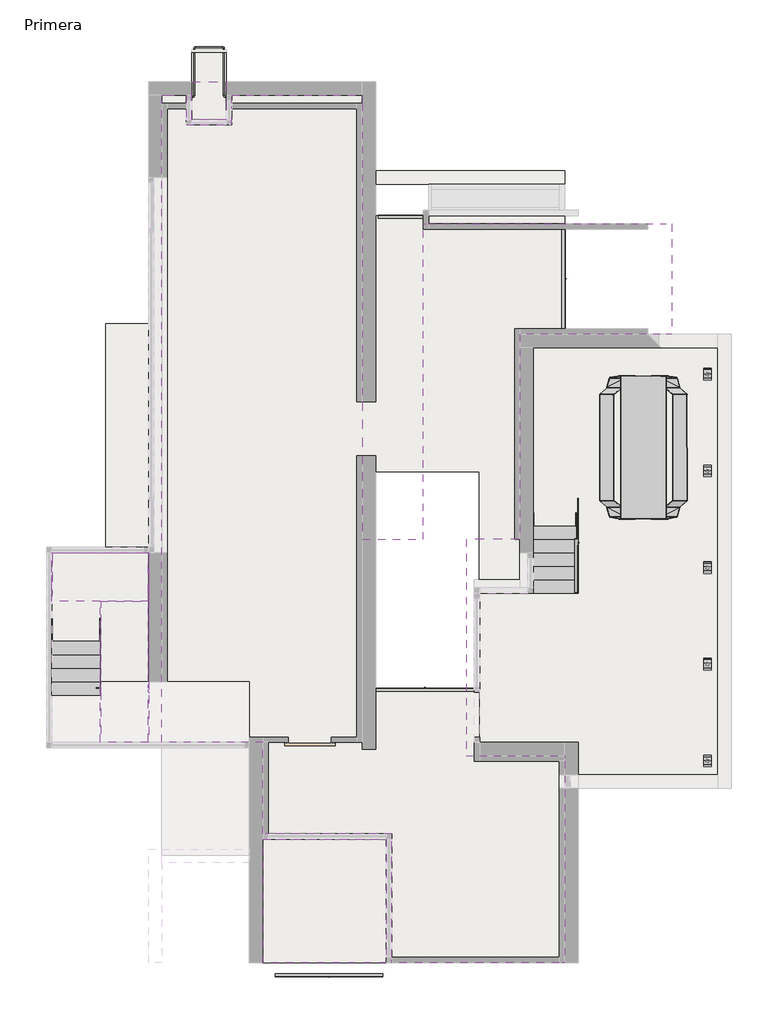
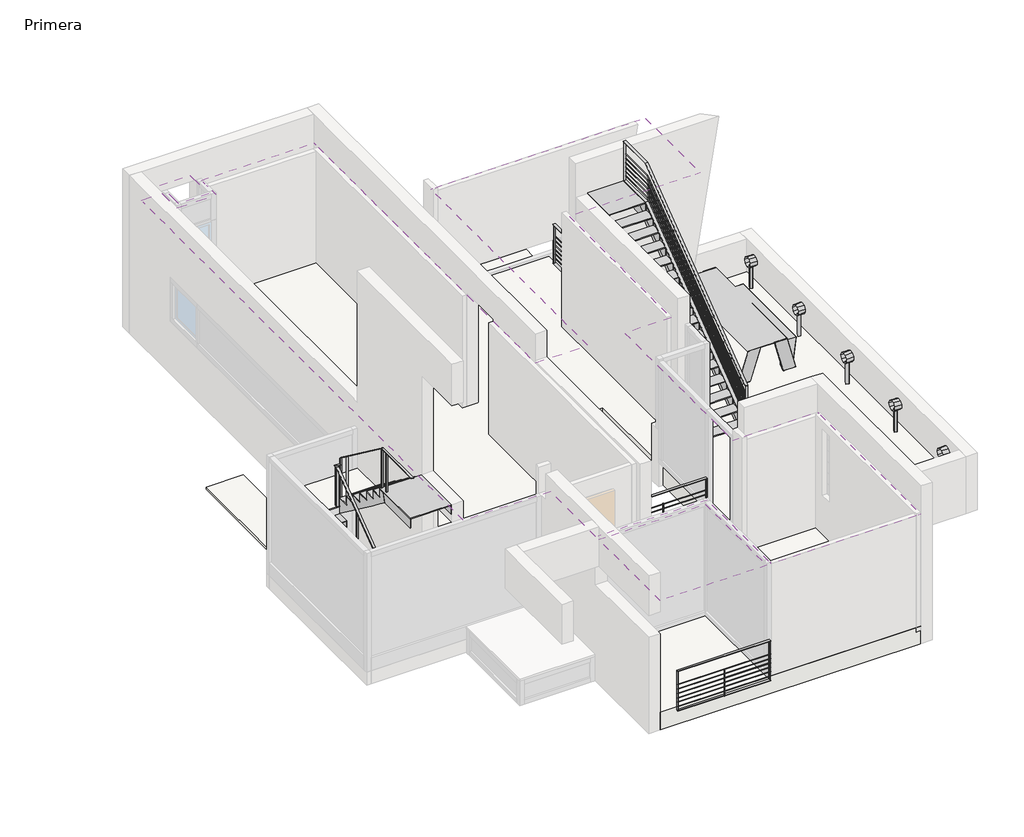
# One storey, part 3 of 3: 11 members, 7 railings, 6 geographic elements, 5 slabs, 3 coverings, 3 stair flights, 1 roof.
"""IFC4 building model written with IfcOpenShell, lengths in millimetres."""

from ifc_helpers import new_model, si_unit, frame, origin, place, context, project, spatial, polyline, outline, extrude, faceted_brep, transform, mapped, element, save
from components import enscape_assetdefinition_outdoor_lamp_005_enscape_cb5cc8c5, enscape_assetdefinition_table_007_enscape_assetdefinition_4199a16f, railing_fb63fa7a, railing_47f48422, railing_eccc1b04, railing_ba0a9aa2, railing_8e1c6d7f, railing_900mm_steel_wire_w_pipe_148a66af, tubo_20_mm_4b636775, slab_f2b46a35, stair_flight_130c18ed, stair_flight_92d3cbff, stair_flight_a7d8fed5

model = new_model("IFC4")

# Units and contexts
model_context = context("Model", 3, world=origin())
ifc_project = project(units=[si_unit("LENGTHUNIT", "METRE", prefix="MILLI")], contexts=[model_context])

# Site, building, storey
site = spatial("IfcSite", under=ifc_project)
building = spatial("IfcBuilding", under=site)
storey = spatial("IfcBuildingStorey", under=building, Name="Primera", Elevation=3000.0)

# Coverings
placement = place(None, origin())
element("IfcCovering", 1, ObjectType="Falso techo continuo de placa de yeso laminado", at=placement, inside=storey, context=model_context, shape_type="Brep", body=[
    faceted_brep([(-3981.0601801, -8042.6669037, 5700.0), (-2103.1025942, -8042.6669037, 5700.0), (-2103.1025942, -9742.6669037, 5700.0), (296.8974058, -9742.6669037, 5700.0), (296.8974058, -12142.6669037, 5700.0), (3518.9398199, -12142.6669037, 5700.0), (3518.9398199, -8292.6669037, 5700.0), (1685.5350958, -8292.6669037, 5700.0), (1685.5350958, -4262.6669037, 5700.0), (2685.5350958, -4262.6669037, 5700.0), (2685.5350958, -443.1853621, 5700.0), (5515.6880653, -443.1853621, 5700.0), (5515.6880653, 1619.072658, 5700.0), (885.5350958, 1619.072658, 5700.0), (885.5350958, -4262.6669037, 5700.0), (-250.8601801, -4262.6669037, 5700.0), (-250.8601801, 4011.8960075, 5700.0), (-2681.0601801, 4011.8960075, 5700.0), (-2681.0601801, 3457.3330963, 5700.0), (-3531.0601801, 3457.3330963, 5700.0), (-3531.0601801, 4011.8960075, 5700.0), (-3981.0601801, 4011.8960075, 5700.0), (-3981.0601801, -8042.6669037, 5650.0), (-3981.0601801, -6912.6669037, 5650.0), (-3981.0601801, 3857.3330963, 5650.0), (-3981.0601801, 4011.8960075, 5650.0), (-3531.0601801, 4011.8960075, 5650.0), (-3531.0601801, 3457.3330963, 5650.0), (-2681.0601801, 3457.3330963, 5650.0), (-2681.0601801, 3757.3330963, 5650.0), (-2681.0601801, 3857.3330963, 5650.0), (-2681.0601801, 4011.8960075, 5650.0), (-250.8601801, 4011.8960075, 5650.0), (-250.8601801, 3857.3330963, 5650.0), (-250.8601801, -1702.6669037, 5650.0), (-250.8601801, -2702.6669037, 5650.0), (-250.8601801, -4262.6669037, 5650.0), (885.5350958, -4262.6669037, 5650.0), (885.5350958, 1619.072658, 5650.0), (985.5350958, 1619.072658, 5650.0), (5297.2414633, 1619.072658, 5650.0), (5515.6880653, 1619.072658, 5650.0), (5515.6880653, -443.1853621, 5650.0), (5297.2414633, -443.1853621, 5650.0), (2685.5350958, -443.1853621, 5650.0), (2685.5350958, -4262.6669037, 5650.0), (1685.5350958, -4262.6669037, 5650.0), (1685.5350958, -8292.6669037, 5650.0), (1935.5350958, -8292.6669037, 5650.0), (3518.9398199, -8292.6669037, 5650.0), (3518.9398199, -8392.6669037, 5650.0), (3518.9398199, -12142.6669037, 5650.0), (3418.9398199, -12142.6669037, 5650.0), (296.8974058, -12142.6669037, 5650.0), (296.8974058, -12042.6669037, 5650.0), (296.8974058, -9742.6669037, 5650.0), (-2003.1025942, -9742.6669037, 5650.0), (-2103.1025942, -9742.6669037, 5650.0), (-2103.1025942, -8042.6669037, 5650.0)], [[[0, 1, 2, 3, 4, 5, 6, 7, 8, 9, 10, 11, 12, 13, 14, 15, 16, 17, 18, 19, 20, 21]], [[22, 23, 24, 25, 26, 27, 28, 29, 30, 31, 32, 33, 34, 35, 36, 37, 38, 39, 40, 41, 42, 43, 44, 45, 46, 47, 48, 49, 50, 51, 52, 53, 54, 55, 56, 57, 58]], [[1, 0, 22, 58]], [[2, 1, 58, 57]], [[3, 2, 57, 56, 55]], [[4, 3, 55, 54, 53]], [[5, 4, 53, 52, 51]], [[6, 5, 51, 50, 49]], [[7, 6, 49, 48, 47]], [[16, 15, 36, 35, 34, 33, 32]], [[17, 16, 32, 31]], [[0, 21, 25, 24, 23, 22]], [[8, 7, 47, 46]], [[9, 8, 46, 45]], [[10, 9, 45, 44]], [[11, 10, 44, 43, 42]], [[12, 11, 42, 41]], [[13, 12, 41, 40, 39, 38]], [[14, 13, 38, 37]], [[15, 14, 37, 36]], [[18, 17, 31, 30, 29, 28]], [[19, 18, 28, 27]], [[20, 19, 27, 26]], [[21, 20, 26, 25]]]),
])
element("IfcCovering", 2, ObjectType="Techo falso de placa de metal", at=placement, inside=storey, context=model_context, shape_type="SweptSolid", body=[
    extrude(outline(polyline([(-3431.0601801, 4261.8960075), (-2781.0601801, 4261.8960075), (-2781.0601801, 3557.3330963), (-3431.0601801, 3557.3330963), (-3431.0601801, 4261.8960075)])), frame((0.0, 0.0, 5650.0), z_axis=(0.0, 0.0, 1.0), x_axis=(1.0, 0.0, 0.0)), (0.0, 0.0, 1.0), 10.0),
])
element("IfcCovering", 3, ObjectType="Techo falso de placa de metal", at=placement, inside=storey, context=model_context, shape_type="SweptSolid", body=[
    extrude(outline(polyline([(-2103.1025942, -9842.6669037), (196.8974058, -9842.6669037), (196.8974058, -12142.6669037), (-2103.1025942, -12142.6669037), (-2103.1025942, -9842.6669037)])), frame((0.0, 0.0, 5650.0), z_axis=(0.0, 0.0, 1.0), x_axis=(1.0, 0.0, 0.0)), (0.0, 0.0, 1.0), 10.0),
])

# Geographic elements
enscape_assetdefinition_outdoor_lamp_005_enscape_shape = enscape_assetdefinition_outdoor_lamp_005_enscape_cb5cc8c5(model_context)
element("IfcGeographicElement", 4, ObjectType="Enscape AssetDefinition - Outdoor Lamp 005 : Enscape AssetDefinition - Outdoor Lamp 005", at=placement, inside=storey, context=model_context, shape_type="MappedRepresentation", body=[
    mapped(enscape_assetdefinition_outdoor_lamp_005_enscape_shape, transform((6178.7374579, -8392.6669037, 3250.0), x_axis=(0.0, 1.0, 0.0), y_axis=(-1.0, 0.0, 0.0), z_axis=(0.0, 0.0, 1.0))),
])
element("IfcGeographicElement", 5, ObjectType="Enscape AssetDefinition - Outdoor Lamp 005 : Enscape AssetDefinition - Outdoor Lamp 005", at=placement, inside=storey, context=model_context, shape_type="MappedRepresentation", body=[
    mapped(enscape_assetdefinition_outdoor_lamp_005_enscape_shape, transform((6178.7374579, -6592.6669037, 3250.0), x_axis=(0.0, 1.0, 0.0), y_axis=(-1.0, 0.0, 0.0), z_axis=(0.0, 0.0, 1.0))),
])
element("IfcGeographicElement", 6, ObjectType="Enscape AssetDefinition - Outdoor Lamp 005 : Enscape AssetDefinition - Outdoor Lamp 005", at=placement, inside=storey, context=model_context, shape_type="MappedRepresentation", body=[
    mapped(enscape_assetdefinition_outdoor_lamp_005_enscape_shape, transform((6178.7374579, -4792.6669037, 3250.0), x_axis=(0.0, 1.0, 0.0), y_axis=(-1.0, 0.0, 0.0), z_axis=(0.0, 0.0, 1.0))),
])
element("IfcGeographicElement", 7, ObjectType="Enscape AssetDefinition - Outdoor Lamp 005 : Enscape AssetDefinition - Outdoor Lamp 005", at=placement, inside=storey, context=model_context, shape_type="MappedRepresentation", body=[
    mapped(enscape_assetdefinition_outdoor_lamp_005_enscape_shape, transform((6178.7374579, -2992.6669037, 3250.0), x_axis=(0.0, 1.0, 0.0), y_axis=(-1.0, 0.0, 0.0), z_axis=(0.0, 0.0, 1.0))),
])
element("IfcGeographicElement", 8, ObjectType="Enscape AssetDefinition - Outdoor Lamp 005 : Enscape AssetDefinition - Outdoor Lamp 005", at=placement, inside=storey, context=model_context, shape_type="MappedRepresentation", body=[
    mapped(enscape_assetdefinition_outdoor_lamp_005_enscape_shape, transform((6178.7374579, -1192.6669037, 3250.0), x_axis=(0.0, 1.0, 0.0), y_axis=(-1.0, 0.0, 0.0), z_axis=(0.0, 0.0, 1.0))),
])
enscape_assetdefinition_table_007_enscape_assetdefinition_shape = enscape_assetdefinition_table_007_enscape_assetdefinition_4199a16f(model_context)
element("IfcGeographicElement", 9, ObjectType="Enscape AssetDefinition - Table 007 : Enscape AssetDefinition - Table 007", at=placement, inside=storey, context=model_context, shape_type="MappedRepresentation", body=[
    mapped(enscape_assetdefinition_table_007_enscape_assetdefinition_shape, transform((4983.6012558, -2550.0, 3250.0), x_axis=(0.0, 1.0, 0.0), y_axis=(-1.0, 0.0, 0.0), z_axis=(0.0, 0.0, 1.0))),
])

# Members
element("IfcMember", 10, ObjectType="Pletina acero", at=placement, inside=storey, context=model_context, shape_type="Brep", body=[
    faceted_brep([(-6021.0601801, -7162.6669037, 3300.0), (-6031.0601801, -7162.6669037, 3300.0), (-6031.0601801, -6935.309303, 3300.0), (-6021.0601801, -6935.309303, 3300.0), (-6021.0601801, -7162.6669037, 3466.6666667), (-6031.0601801, -7162.6669037, 3466.6666667), (-6021.0601801, -5229.9521601, 4573.3333333), (-6021.0601801, -5296.3814947, 4773.3333333), (-6021.0601801, -5412.6669037, 4773.3333333), (-6021.0601801, -5412.6669037, 4586.6666667), (-6021.0601801, -5662.6669037, 4586.6666667), (-6021.0601801, -5662.6669037, 4400.0), (-6021.0601801, -5912.6669037, 4400.0), (-6021.0601801, -5912.6669037, 4213.3333333), (-6021.0601801, -6162.6669037, 4213.3333333), (-6021.0601801, -6162.6669037, 4026.6666667), (-6021.0601801, -6412.6669037, 4026.6666667), (-6021.0601801, -6412.6669037, 3840.0), (-6021.0601801, -6662.6669037, 3840.0), (-6021.0601801, -6662.6669037, 3653.3333333), (-6021.0601801, -6912.6669037, 3653.3333333), (-6021.0601801, -6912.6669037, 3466.6666667), (-6031.0601801, -6912.6669037, 3466.6666667), (-6031.0601801, -6912.6669037, 3653.3333333), (-6031.0601801, -6662.6669037, 3653.3333333), (-6031.0601801, -6662.6669037, 3840.0), (-6031.0601801, -6412.6669037, 3840.0), (-6031.0601801, -6412.6669037, 4026.6666667), (-6031.0601801, -6162.6669037, 4026.6666667), (-6031.0601801, -6162.6669037, 4213.3333333), (-6031.0601801, -5912.6669037, 4213.3333333), (-6031.0601801, -5912.6669037, 4400.0), (-6031.0601801, -5662.6669037, 4400.0), (-6031.0601801, -5662.6669037, 4586.6666667), (-6031.0601801, -5412.6669037, 4586.6666667), (-6031.0601801, -5412.6669037, 4773.3333333), (-6031.0601801, -5296.3814947, 4773.3333333), (-6031.0601801, -5229.9521601, 4573.3333333), (-6031.0601801, -5412.6669037, 4436.9063248), (-6031.0601801, -5662.6669037, 4250.2396581), (-6031.0601801, -5912.6669037, 4063.5729915), (-6031.0601801, -6162.6669037, 3876.9063248), (-6031.0601801, -6412.6669037, 3690.2396581), (-6031.0601801, -6662.6669037, 3503.5729915), (-6031.0601801, -6912.6669037, 3316.9063248)], [[[0, 1, 2, 3]], [[0, 4, 5, 1]], [[3, 6, 7, 8, 9, 10, 11, 12, 13, 14, 15, 16, 17, 18, 19, 20, 21, 4, 0]], [[21, 22, 5, 4]], [[1, 5, 22, 23, 24, 25, 26, 27, 28, 29, 30, 31, 32, 33, 34, 35, 36, 37, 38, 39, 40, 41, 42, 43, 44, 2]], [[2, 44, 43, 42, 41, 40, 39, 38, 37, 6, 3]], [[31, 12, 11, 32]], [[22, 21, 20, 23]], [[23, 20, 19, 24]], [[24, 19, 18, 25]], [[25, 18, 17, 26]], [[26, 17, 16, 27]], [[27, 16, 15, 28]], [[28, 15, 14, 29]], [[29, 14, 13, 30]], [[30, 13, 12, 31]], [[8, 35, 34, 9]], [[35, 8, 7, 36]], [[6, 37, 36, 7]], [[32, 11, 10, 33]], [[33, 10, 9, 34]]]),
])
element("IfcMember", 11, ObjectType="Pletina acero", at=placement, inside=storey, context=model_context, shape_type="Brep", body=[
    faceted_brep([(-5131.0601801, -7162.6669037, 3300.0), (-5141.0601801, -7162.6669037, 3300.0), (-5141.0601801, -6935.309303, 3300.0), (-5131.0601801, -6935.309303, 3300.0), (-5131.0601801, -7162.6669037, 3466.6666667), (-5141.0601801, -7162.6669037, 3466.6666667), (-5131.0601801, -6912.6669037, 3316.9063248), (-5131.0601801, -6662.6669037, 3503.5729915), (-5131.0601801, -6412.6669037, 3690.2396581), (-5131.0601801, -6162.6669037, 3876.9063248), (-5131.0601801, -5912.6669037, 4063.5729915), (-5131.0601801, -5712.0950172, 4213.3333333), (-5131.0601801, -5412.6669037, 4436.9063248), (-5131.0601801, -5412.6669037, 4586.6666667), (-5131.0601801, -5662.6669037, 4586.6666667), (-5131.0601801, -5662.6669037, 4400.0), (-5131.0601801, -5912.6669037, 4400.0), (-5131.0601801, -5912.6669037, 4213.3333333), (-5131.0601801, -6162.6669037, 4213.3333333), (-5131.0601801, -6162.6669037, 4026.6666667), (-5131.0601801, -6412.6669037, 4026.6666667), (-5131.0601801, -6412.6669037, 3840.0), (-5131.0601801, -6662.6669037, 3840.0), (-5131.0601801, -6662.6669037, 3653.3333333), (-5131.0601801, -6912.6669037, 3653.3333333), (-5131.0601801, -6912.6669037, 3466.6666667), (-5141.0601801, -6912.6669037, 3466.6666667), (-5141.0601801, -5412.6669037, 4436.9063248), (-5141.0601801, -6912.6669037, 3653.3333333), (-5141.0601801, -6662.6669037, 3653.3333333), (-5141.0601801, -6662.6669037, 3840.0), (-5141.0601801, -6412.6669037, 3840.0), (-5141.0601801, -6412.6669037, 4026.6666667), (-5141.0601801, -6162.6669037, 4026.6666667), (-5141.0601801, -6162.6669037, 4213.3333333), (-5141.0601801, -5912.6669037, 4213.3333333), (-5141.0601801, -5912.6669037, 4400.0), (-5141.0601801, -5662.6669037, 4400.0), (-5141.0601801, -5662.6669037, 4586.6666667), (-5141.0601801, -5412.6669037, 4586.6666667)], [[[0, 1, 2, 3]], [[0, 4, 5, 1]], [[4, 0, 3, 6, 7, 8, 9, 10, 11, 12, 13, 14, 15, 16, 17, 18, 19, 20, 21, 22, 23, 24, 25]], [[25, 26, 5, 4]], [[27, 2, 1, 5, 26, 28, 29, 30, 31, 32, 33, 34, 35, 36, 37, 38, 39]], [[2, 27, 12, 11, 10, 9, 8, 7, 6, 3]], [[36, 16, 15, 37]], [[26, 25, 24, 28]], [[28, 24, 23, 29]], [[29, 23, 22, 30]], [[30, 22, 21, 31]], [[31, 21, 20, 32]], [[32, 20, 19, 33]], [[33, 19, 18, 34]], [[34, 18, 17, 35]], [[35, 17, 16, 36]], [[12, 27, 39, 13]], [[37, 15, 14, 38]], [[38, 14, 13, 39]]]),
])
element("IfcMember", 12, ObjectType="Pletina acero", at=placement, inside=storey, context=model_context, shape_type="Brep", body=[
    faceted_brep([(-4231.0601801, -5345.3816473, 4573.3333333), (-4231.0601801, -5278.9523127, 4773.3333333), (-4231.0601801, -5412.6669037, 4773.3333333), (-4231.0601801, -5412.6669037, 4960.0), (-4231.0601801, -5662.6669037, 4960.0), (-4231.0601801, -5662.6669037, 5146.6666667), (-4231.0601801, -5912.6669037, 5146.6666667), (-4231.0601801, -5912.6669037, 5333.3333333), (-4231.0601801, -6162.6669037, 5333.3333333), (-4231.0601801, -6162.6669037, 5520.0), (-4231.0601801, -6412.6669037, 5520.0), (-4231.0601801, -6412.6669037, 5706.6666667), (-4231.0601801, -6662.6669037, 5706.6666667), (-4231.0601801, -6662.6669037, 5893.3333333), (-4231.0601801, -6912.6669037, 5893.3333333), (-4231.0601801, -6912.6669037, 6080.0), (-4231.0601801, -7028.9523127, 6080.0), (-4231.0601801, -7095.3816473, 5880.0), (-4231.0601801, -6912.6669037, 5743.5729915), (-4231.0601801, -6662.6669037, 5556.9063248), (-4231.0601801, -6412.6669037, 5370.2396581), (-4231.0601801, -6162.6669037, 5183.5729915), (-4231.0601801, -5912.6669037, 4996.9063248), (-4231.0601801, -5662.6669037, 4810.2396581), (-4231.0601801, -5412.6669037, 4623.5729915), (-4241.0601801, -7095.3816473, 5880.0), (-4241.0601801, -5345.3816473, 4573.3333333), (-4241.0601801, -7028.9523127, 6080.0), (-4241.0601801, -6912.6669037, 6080.0), (-4241.0601801, -6912.6669037, 5893.3333333), (-4241.0601801, -6662.6669037, 5893.3333333), (-4241.0601801, -6662.6669037, 5706.6666667), (-4241.0601801, -6412.6669037, 5706.6666667), (-4241.0601801, -6412.6669037, 5520.0), (-4241.0601801, -6162.6669037, 5520.0), (-4241.0601801, -6162.6669037, 5333.3333333), (-4241.0601801, -5912.6669037, 5333.3333333), (-4241.0601801, -5912.6669037, 5146.6666667), (-4241.0601801, -5662.6669037, 5146.6666667), (-4241.0601801, -5662.6669037, 4960.0), (-4241.0601801, -5412.6669037, 4960.0), (-4241.0601801, -5412.6669037, 4773.3333333), (-4241.0601801, -5278.9523127, 4773.3333333)], [[[0, 1, 2, 3, 4, 5, 6, 7, 8, 9, 10, 11, 12, 13, 14, 15, 16, 17, 18, 19, 20, 21, 22, 23, 24]], [[25, 26, 0, 24, 23, 22, 21, 20, 19, 18, 17]], [[26, 25, 27, 28, 29, 30, 31, 32, 33, 34, 35, 36, 37, 38, 39, 40, 41, 42]], [[3, 40, 39, 4]], [[40, 3, 2, 41]], [[5, 38, 37, 6]], [[4, 39, 38, 5]], [[7, 36, 35, 8]], [[6, 37, 36, 7]], [[9, 34, 33, 10]], [[8, 35, 34, 9]], [[11, 32, 31, 12]], [[10, 33, 32, 11]], [[13, 30, 29, 14]], [[12, 31, 30, 13]], [[0, 26, 42, 1]], [[41, 2, 1, 42]], [[25, 17, 16, 27]], [[15, 28, 27, 16]], [[14, 29, 28, 15]]]),
])
element("IfcMember", 13, ObjectType="Pletina acero", at=placement, inside=storey, context=model_context, shape_type="Brep", body=[
    faceted_brep([(-5121.0601801, -7095.3816473, 5880.0), (-5121.0601801, -5412.6669037, 4623.5729915), (-5121.0601801, -5412.6669037, 4960.0), (-5121.0601801, -5662.6669037, 4960.0), (-5121.0601801, -5662.6669037, 5146.6666667), (-5121.0601801, -5912.6669037, 5146.6666667), (-5121.0601801, -5912.6669037, 5333.3333333), (-5121.0601801, -6162.6669037, 5333.3333333), (-5121.0601801, -6162.6669037, 5520.0), (-5121.0601801, -6412.6669037, 5520.0), (-5121.0601801, -6412.6669037, 5706.6666667), (-5121.0601801, -6662.6669037, 5706.6666667), (-5121.0601801, -6662.6669037, 5893.3333333), (-5121.0601801, -6912.6669037, 5893.3333333), (-5121.0601801, -6912.6669037, 6080.0), (-5121.0601801, -7028.9523127, 6080.0), (-5131.0601801, -7095.3816473, 5880.0), (-5131.0601801, -6912.6669037, 5743.5729915), (-5131.0601801, -6662.6669037, 5556.9063248), (-5131.0601801, -6412.6669037, 5370.2396581), (-5131.0601801, -6162.6669037, 5183.5729915), (-5131.0601801, -5912.6669037, 4996.9063248), (-5131.0601801, -5662.6669037, 4810.2396581), (-5131.0601801, -5412.6669037, 4623.5729915), (-5131.0601801, -5412.6669037, 4960.0), (-5131.0601801, -7028.9523127, 6080.0), (-5131.0601801, -6912.6669037, 6080.0), (-5131.0601801, -6912.6669037, 5893.3333333), (-5131.0601801, -6662.6669037, 5893.3333333), (-5131.0601801, -6662.6669037, 5706.6666667), (-5131.0601801, -6412.6669037, 5706.6666667), (-5131.0601801, -6412.6669037, 5520.0), (-5131.0601801, -6162.6669037, 5520.0), (-5131.0601801, -6162.6669037, 5333.3333333), (-5131.0601801, -5912.6669037, 5333.3333333), (-5131.0601801, -5912.6669037, 5146.6666667), (-5131.0601801, -5662.6669037, 5146.6666667), (-5131.0601801, -5662.6669037, 4960.0)], [[[0, 1, 2, 3, 4, 5, 6, 7, 8, 9, 10, 11, 12, 13, 14, 15]], [[1, 0, 16, 17, 18, 19, 20, 21, 22, 23]], [[24, 23, 22, 21, 20, 19, 18, 17, 16, 25, 26, 27, 28, 29, 30, 31, 32, 33, 34, 35, 36, 37]], [[37, 3, 2, 24]], [[4, 36, 35, 5]], [[3, 37, 36, 4]], [[6, 34, 33, 7]], [[5, 35, 34, 6]], [[8, 32, 31, 9]], [[7, 33, 32, 8]], [[10, 30, 29, 11]], [[9, 31, 30, 10]], [[12, 28, 27, 13]], [[11, 29, 28, 12]], [[1, 23, 24, 2]], [[16, 0, 15, 25]], [[14, 26, 25, 15]], [[13, 27, 26, 14]]]),
])
element("IfcMember", 14, ObjectType="Pletina acero", at=placement, inside=storey, context=model_context, shape_type="Brep", body=[
    faceted_brep([(-4241.0601801, -4522.6669037, 4573.3333333), (-4241.0601801, -5345.3816473, 4573.3333333), (-4241.0601801, -5278.9523127, 4773.3333333), (-4241.0601801, -4522.6669037, 4773.3333333), (-4231.0601801, -4512.6669037, 4573.3333333), (-4231.0601801, -5345.3816473, 4573.3333333), (-4231.0601801, -4512.6669037, 4773.3333333), (-4231.0601801, -5278.9523127, 4773.3333333)], [[[0, 1, 2, 3]], [[1, 0, 4, 5]], [[5, 4, 6, 7]], [[3, 2, 7, 6]], [[1, 5, 7, 2]], [[4, 0, 3, 6]]]),
])
element("IfcMember", 15, ObjectType="Pletina acero", at=placement, inside=storey, context=model_context, shape_type="SweptSolid", body=[
    extrude(outline(polyline([(-4241.0601801, -4522.6669037), (-6021.0601801, -4522.6669037), (-6031.0601801, -4512.6669037), (-4231.0601801, -4512.6669037), (-4241.0601801, -4522.6669037)])), frame((0.0, 0.0, 4573.3333333), z_axis=(0.0, 0.0, 1.0), x_axis=(1.0, 0.0, 0.0)), (0.0, 0.0, 1.0), 200.0),
])
element("IfcMember", 16, ObjectType="Pletina acero", at=placement, inside=storey, context=model_context, shape_type="Brep", body=[
    faceted_brep([(-6021.0601801, -5229.9521601, 4573.3333333), (-6021.0601801, -4522.6669037, 4573.3333333), (-6021.0601801, -4522.6669037, 4773.3333333), (-6021.0601801, -5296.3814947, 4773.3333333), (-6031.0601801, -5229.9521601, 4573.3333333), (-6031.0601801, -4512.6669037, 4573.3333333), (-6031.0601801, -5296.3814947, 4773.3333333), (-6031.0601801, -4512.6669037, 4773.3333333)], [[[0, 1, 2, 3]], [[1, 0, 4, 5]], [[5, 4, 6, 7]], [[3, 2, 7, 6]], [[1, 5, 7, 2]], [[4, 0, 3, 6]]]),
])
element("IfcMember", 17, ObjectType="Pletina acero", at=placement, inside=storey, context=model_context, shape_type="Brep", body=[
    faceted_brep([(-4241.0601801, -8042.6669037, 5880.0), (-4231.0601801, -8042.6669037, 5880.0), (-4231.0601801, -8042.6669037, 6080.0), (-4241.0601801, -8042.6669037, 6080.0), (-4231.0601801, -7162.6669037, 5880.0), (-4231.0601801, -7095.3816473, 5880.0), (-4231.0601801, -7028.9523127, 6080.0), (-4231.0601801, -7162.6669037, 6080.0), (-4241.0601801, -7095.3816473, 5880.0), (-4241.0601801, -7028.9523127, 6080.0)], [[[0, 1, 2, 3]], [[2, 1, 4, 5, 6, 7]], [[1, 0, 8, 5, 4]], [[8, 0, 3, 9]], [[5, 8, 9, 6]], [[3, 2, 7, 6, 9]]]),
])
element("IfcMember", 18, ObjectType="Pletina acero", at=placement, inside=storey, context=model_context, shape_type="Brep", body=[
    faceted_brep([(-5131.0601801, -8042.6669037, 5880.0), (-5121.0601801, -8042.6669037, 5880.0), (-5121.0601801, -8042.6669037, 6080.0), (-5131.0601801, -8042.6669037, 6080.0), (-5121.0601801, -7095.3816473, 5880.0), (-5121.0601801, -7028.9523127, 6080.0), (-5131.0601801, -7162.6669037, 5880.0), (-5131.0601801, -7095.3816473, 5880.0), (-5131.0601801, -7162.6669037, 6080.0), (-5131.0601801, -7028.9523127, 6080.0)], [[[0, 1, 2, 3]], [[1, 4, 5, 2]], [[1, 0, 6, 7, 4]], [[0, 3, 8, 9, 7, 6]], [[4, 7, 9, 5]], [[3, 2, 5, 9, 8]]]),
])
element("IfcMember", 19, ObjectType="Pletina acero", at=placement, inside=storey, context=model_context, shape_type="Brep", body=[
    faceted_brep([(2945.5350958, -5262.6669037, 3250.0), (2935.5350958, -5262.6669037, 3250.0), (2935.5350958, -5036.000237, 3250.0), (2945.5350958, -5036.000237, 3250.0), (2945.5350958, -5262.6669037, 3417.5), (2935.5350958, -5262.6669037, 3417.5), (2945.5350958, -1062.6669037, 6230.0), (2945.5350958, -1512.6669037, 6230.0), (2945.5350958, -1512.6669037, 6042.5), (2945.5350958, -1762.6669037, 6042.5), (2945.5350958, -1762.6669037, 5855.0), (2945.5350958, -2012.6669037, 5855.0), (2945.5350958, -2012.6669037, 5667.5), (2945.5350958, -2262.6669037, 5667.5), (2945.5350958, -2262.6669037, 5480.0), (2945.5350958, -2512.6669037, 5480.0), (2945.5350958, -2512.6669037, 5292.5), (2945.5350958, -2762.6669037, 5292.5), (2945.5350958, -2762.6669037, 5105.0), (2945.5350958, -3012.6669037, 5105.0), (2945.5350958, -3012.6669037, 4917.5), (2945.5350958, -3262.6669037, 4917.5), (2945.5350958, -3262.6669037, 4730.0), (2945.5350958, -3512.6669037, 4730.0), (2945.5350958, -3512.6669037, 4542.5), (2945.5350958, -3762.6669037, 4542.5), (2945.5350958, -3762.6669037, 4355.0), (2945.5350958, -4012.6669037, 4355.0), (2945.5350958, -4012.6669037, 4167.5), (2945.5350958, -4262.6669037, 4167.5), (2945.5350958, -4262.6669037, 3980.0), (2945.5350958, -4512.6669037, 3980.0), (2945.5350958, -4512.6669037, 3792.5), (2945.5350958, -4762.6669037, 3792.5), (2945.5350958, -4762.6669037, 3605.0), (2945.5350958, -5012.6669037, 3605.0), (2945.5350958, -5012.6669037, 3417.5), (2935.5350958, -5012.6669037, 3417.5), (2935.5350958, -5012.6669037, 3605.0), (2935.5350958, -4762.6669037, 3605.0), (2935.5350958, -4762.6669037, 3792.5), (2935.5350958, -4512.6669037, 3792.5), (2935.5350958, -4512.6669037, 3980.0), (2935.5350958, -4262.6669037, 3980.0), (2935.5350958, -4262.6669037, 4167.5), (2935.5350958, -4012.6669037, 4167.5), (2935.5350958, -4012.6669037, 4355.0), (2935.5350958, -3762.6669037, 4355.0), (2935.5350958, -3762.6669037, 4542.5), (2935.5350958, -3512.6669037, 4542.5), (2935.5350958, -3512.6669037, 4730.0), (2935.5350958, -3262.6669037, 4730.0), (2935.5350958, -3262.6669037, 4917.5), (2935.5350958, -3012.6669037, 4917.5), (2935.5350958, -3012.6669037, 5105.0), (2935.5350958, -2762.6669037, 5105.0), (2935.5350958, -2762.6669037, 5292.5), (2935.5350958, -2512.6669037, 5292.5), (2935.5350958, -2512.6669037, 5480.0), (2935.5350958, -2262.6669037, 5480.0), (2935.5350958, -2262.6669037, 5667.5), (2935.5350958, -2012.6669037, 5667.5), (2935.5350958, -2012.6669037, 5855.0), (2935.5350958, -1762.6669037, 5855.0), (2935.5350958, -1762.6669037, 6042.5), (2935.5350958, -1512.6669037, 6042.5), (2935.5350958, -1512.6669037, 6230.0), (2935.5350958, -1062.6669037, 6230.0), (2935.5350958, -1512.6669037, 5892.5), (2935.5350958, -1762.6669037, 5705.0), (2935.5350958, -2012.6669037, 5517.5), (2935.5350958, -2262.6669037, 5330.0), (2935.5350958, -2512.6669037, 5142.5), (2935.5350958, -2762.6669037, 4955.0), (2935.5350958, -3012.6669037, 4767.5), (2935.5350958, -3262.6669037, 4580.0), (2935.5350958, -3512.6669037, 4392.5), (2935.5350958, -3762.6669037, 4205.0), (2935.5350958, -4012.6669037, 4017.5), (2935.5350958, -4262.6669037, 3830.0), (2935.5350958, -4512.6669037, 3642.5), (2935.5350958, -4762.6669037, 3455.0), (2935.5350958, -5012.6669037, 3267.5)], [[[0, 1, 2, 3]], [[0, 4, 5, 1]], [[4, 0, 3, 6, 7, 8, 9, 10, 11, 12, 13, 14, 15, 16, 17, 18, 19, 20, 21, 22, 23, 24, 25, 26, 27, 28, 29, 30, 31, 32, 33, 34, 35, 36]], [[36, 37, 5, 4]], [[1, 5, 37, 38, 39, 40, 41, 42, 43, 44, 45, 46, 47, 48, 49, 50, 51, 52, 53, 54, 55, 56, 57, 58, 59, 60, 61, 62, 63, 64, 65, 66, 67, 68, 69, 70, 71, 72, 73, 74, 75, 76, 77, 78, 79, 80, 81, 82, 2]], [[2, 82, 81, 80, 79, 78, 77, 76, 75, 74, 73, 72, 71, 70, 69, 68, 67, 6, 3]], [[64, 9, 8, 65]], [[37, 36, 35, 38]], [[38, 35, 34, 39]], [[39, 34, 33, 40]], [[40, 33, 32, 41]], [[41, 32, 31, 42]], [[42, 31, 30, 43]], [[43, 30, 29, 44]], [[44, 29, 28, 45]], [[45, 28, 27, 46]], [[46, 27, 26, 47]], [[47, 26, 25, 48]], [[48, 25, 24, 49]], [[49, 24, 23, 50]], [[50, 23, 22, 51]], [[51, 22, 21, 52]], [[52, 21, 20, 53]], [[53, 20, 19, 54]], [[54, 19, 18, 55]], [[55, 18, 17, 56]], [[56, 17, 16, 57]], [[57, 16, 15, 58]], [[58, 15, 14, 59]], [[59, 14, 13, 60]], [[60, 13, 12, 61]], [[61, 12, 11, 62]], [[62, 11, 10, 63]], [[63, 10, 9, 64]], [[65, 8, 7, 66]], [[66, 7, 6, 67]]]),
])
element("IfcMember", 20, ObjectType="Pletina acero", at=placement, inside=storey, context=model_context, shape_type="Brep", body=[
    faceted_brep([(3735.5350958, -5262.6669037, 3250.0), (3725.5350958, -5262.6669037, 3250.0), (3725.5350958, -5036.000237, 3250.0), (3735.5350958, -5036.000237, 3250.0), (3735.5350958, -5262.6669037, 3417.5), (3725.5350958, -5262.6669037, 3417.5), (3735.5350958, -5012.6669037, 3267.5), (3735.5350958, -4762.6669037, 3455.0), (3735.5350958, -4512.6669037, 3642.5), (3735.5350958, -4262.6669037, 3830.0), (3735.5350958, -4012.6669037, 4017.5), (3735.5350958, -3762.6669037, 4205.0), (3735.5350958, -3512.6669037, 4392.5), (3735.5350958, -3262.6669037, 4580.0), (3735.5350958, -3012.6669037, 4767.5), (3735.5350958, -2762.6669037, 4955.0), (3735.5350958, -2512.6669037, 5142.5), (3735.5350958, -2262.6669037, 5330.0), (3735.5350958, -2012.6669037, 5517.5), (3735.5350958, -1762.6669037, 5705.0), (3735.5350958, -1512.6669037, 5892.5), (3735.5350958, -1062.6669037, 6230.0), (3735.5350958, -1512.6669037, 6230.0), (3735.5350958, -1512.6669037, 6042.5), (3735.5350958, -1762.6669037, 6042.5), (3735.5350958, -1762.6669037, 5855.0), (3735.5350958, -2012.6669037, 5855.0), (3735.5350958, -2012.6669037, 5667.5), (3735.5350958, -2262.6669037, 5667.5), (3735.5350958, -2262.6669037, 5480.0), (3735.5350958, -2512.6669037, 5480.0), (3735.5350958, -2512.6669037, 5292.5), (3735.5350958, -2762.6669037, 5292.5), (3735.5350958, -2762.6669037, 5105.0), (3735.5350958, -3012.6669037, 5105.0), (3735.5350958, -3012.6669037, 4917.5), (3735.5350958, -3262.6669037, 4917.5), (3735.5350958, -3262.6669037, 4730.0), (3735.5350958, -3512.6669037, 4730.0), (3735.5350958, -3512.6669037, 4542.5), (3735.5350958, -3762.6669037, 4542.5), (3735.5350958, -3762.6669037, 4355.0), (3735.5350958, -4012.6669037, 4355.0), (3735.5350958, -4012.6669037, 4167.5), (3735.5350958, -4262.6669037, 4167.5), (3735.5350958, -4262.6669037, 3980.0), (3735.5350958, -4512.6669037, 3980.0), (3735.5350958, -4512.6669037, 3792.5), (3735.5350958, -4762.6669037, 3792.5), (3735.5350958, -4762.6669037, 3605.0), (3735.5350958, -5012.6669037, 3605.0), (3735.5350958, -5012.6669037, 3417.5), (3725.5350958, -5012.6669037, 3417.5), (3725.5350958, -5012.6669037, 3605.0), (3725.5350958, -4762.6669037, 3605.0), (3725.5350958, -4762.6669037, 3792.5), (3725.5350958, -4512.6669037, 3792.5), (3725.5350958, -4512.6669037, 3980.0), (3725.5350958, -4262.6669037, 3980.0), (3725.5350958, -4262.6669037, 4167.5), (3725.5350958, -4012.6669037, 4167.5), (3725.5350958, -4012.6669037, 4355.0), (3725.5350958, -3762.6669037, 4355.0), (3725.5350958, -3762.6669037, 4542.5), (3725.5350958, -3512.6669037, 4542.5), (3725.5350958, -3512.6669037, 4730.0), (3725.5350958, -3262.6669037, 4730.0), (3725.5350958, -3262.6669037, 4917.5), (3725.5350958, -3012.6669037, 4917.5), (3725.5350958, -3012.6669037, 5105.0), (3725.5350958, -2762.6669037, 5105.0), (3725.5350958, -2762.6669037, 5292.5), (3725.5350958, -2512.6669037, 5292.5), (3725.5350958, -2512.6669037, 5480.0), (3725.5350958, -2262.6669037, 5480.0), (3725.5350958, -2262.6669037, 5667.5), (3725.5350958, -2012.6669037, 5667.5), (3725.5350958, -2012.6669037, 5855.0), (3725.5350958, -1762.6669037, 5855.0), (3725.5350958, -1762.6669037, 6042.5), (3725.5350958, -1512.6669037, 6042.5), (3725.5350958, -1512.6669037, 6230.0), (3725.5350958, -1062.6669037, 6230.0)], [[[0, 1, 2, 3]], [[0, 4, 5, 1]], [[4, 0, 3, 6, 7, 8, 9, 10, 11, 12, 13, 14, 15, 16, 17, 18, 19, 20, 21, 22, 23, 24, 25, 26, 27, 28, 29, 30, 31, 32, 33, 34, 35, 36, 37, 38, 39, 40, 41, 42, 43, 44, 45, 46, 47, 48, 49, 50, 51]], [[51, 52, 5, 4]], [[1, 5, 52, 53, 54, 55, 56, 57, 58, 59, 60, 61, 62, 63, 64, 65, 66, 67, 68, 69, 70, 71, 72, 73, 74, 75, 76, 77, 78, 79, 80, 81, 82, 2]], [[2, 82, 21, 20, 19, 18, 17, 16, 15, 14, 13, 12, 11, 10, 9, 8, 7, 6, 3]], [[79, 24, 23, 80]], [[52, 51, 50, 53]], [[53, 50, 49, 54]], [[54, 49, 48, 55]], [[55, 48, 47, 56]], [[56, 47, 46, 57]], [[57, 46, 45, 58]], [[58, 45, 44, 59]], [[59, 44, 43, 60]], [[60, 43, 42, 61]], [[61, 42, 41, 62]], [[62, 41, 40, 63]], [[63, 40, 39, 64]], [[64, 39, 38, 65]], [[65, 38, 37, 66]], [[66, 37, 36, 67]], [[67, 36, 35, 68]], [[68, 35, 34, 69]], [[69, 34, 33, 70]], [[70, 33, 32, 71]], [[71, 32, 31, 72]], [[72, 31, 30, 73]], [[73, 30, 29, 74]], [[74, 29, 28, 75]], [[75, 28, 27, 76]], [[76, 27, 26, 77]], [[77, 26, 25, 78]], [[78, 25, 24, 79]], [[80, 23, 22, 81]], [[81, 22, 21, 82]]]),
])

# Railings
railing_shape = railing_fb63fa7a(model_context)
element("IfcRailing", 21, ObjectType="Pletina y tubos pancha cubre forjado", at=placement, inside=storey, context=model_context, shape_type="MappedRepresentation", body=[
    mapped(railing_shape, transform((0.0, 0.0, 0.0), x_axis=(1.0, 0.0, 0.0), y_axis=(0.0, 1.0, 0.0), z_axis=(0.0, 0.0, 1.0))),
])
railing_2_shape = railing_47f48422(model_context)
element("IfcRailing", 22, ObjectType="Pletina y tubos pancha cubre forjado", at=placement, inside=storey, context=model_context, shape_type="MappedRepresentation", body=[
    mapped(railing_2_shape, transform((0.0, 0.0, 0.0), x_axis=(1.0, 0.0, 0.0), y_axis=(0.0, 1.0, 0.0), z_axis=(0.0, 0.0, 1.0))),
])
railing_3_shape = railing_eccc1b04(model_context)
element("IfcRailing", 23, ObjectType="Pletina y tubos pancha cubre forjado", at=placement, inside=storey, context=model_context, shape_type="MappedRepresentation", body=[
    mapped(railing_3_shape, transform((0.0, 0.0, 0.0), x_axis=(1.0, 0.0, 0.0), y_axis=(0.0, 1.0, 0.0), z_axis=(0.0, 0.0, 1.0))),
])
railing_4_shape = railing_ba0a9aa2(model_context)
element("IfcRailing", 24, ObjectType="Pletina y tubos pancha cubre forjado", at=placement, inside=storey, context=model_context, shape_type="MappedRepresentation", body=[
    mapped(railing_4_shape, transform((0.0, 0.0, 0.0), x_axis=(1.0, 0.0, 0.0), y_axis=(0.0, 1.0, 0.0), z_axis=(0.0, 0.0, 1.0))),
])
railing_5_shape = railing_8e1c6d7f(model_context)
element("IfcRailing", 25, ObjectType="Pletina y tubos", at=placement, inside=storey, context=model_context, shape_type="MappedRepresentation", body=[
    mapped(railing_5_shape, transform((0.0, 0.0, 0.0), x_axis=(1.0, 0.0, 0.0), y_axis=(0.0, 1.0, 0.0), z_axis=(0.0, 0.0, 1.0))),
])
railing_900mm_steel_wire_w_pipe_shape = railing_900mm_steel_wire_w_pipe_148a66af(model_context)
element("IfcRailing", 26, ObjectType="900mm Steel Wire W Pipe", at=placement, inside=storey, context=model_context, shape_type="MappedRepresentation", body=[
    mapped(railing_900mm_steel_wire_w_pipe_shape, transform((0.0, 0.0, 0.0), x_axis=(1.0, 0.0, 0.0), y_axis=(0.0, 1.0, 0.0), z_axis=(0.0, 0.0, 1.0))),
])
tubo_20_mm_shape = tubo_20_mm_4b636775(model_context)
element("IfcRailing", 27, ObjectType="Tubo 20 mm", at=placement, inside=storey, context=model_context, shape_type="MappedRepresentation", body=[
    mapped(tubo_20_mm_shape, transform((0.0, 0.0, 0.0), x_axis=(1.0, 0.0, 0.0), y_axis=(0.0, 1.0, 0.0), z_axis=(0.0, 0.0, 1.0))),
])

# Roof
element("IfcRoof", 28, ObjectType="Plana invertida transitable", at=placement, inside=storey, context=model_context, shape_type="Brep", body=[
    faceted_brep([(1933.6012558, -8042.6669037, 2700.0), (1933.6012558, -5262.6669037, 2700.0), (2935.5350958, -5262.6669037, 2700.0), (2935.5350958, -4412.6669037, 2700.0), (2935.5350958, -693.1853621, 2700.0), (3518.9398199, -693.1853621, 2700.0), (3768.9398199, -693.1853621, 2700.0), (6371.690629, -693.1853621, 2700.0), (6371.690629, -8642.6669037, 2700.0), (3768.9398199, -8642.6669037, 2700.0), (3768.9398199, -8042.6669037, 2700.0), (1933.6012558, -5262.6669037, 3250.0), (1933.6012558, -8042.6669037, 3250.0), (3768.9398199, -8042.6669037, 3250.0), (3768.9398199, -8642.6669037, 3250.0), (6371.690629, -8642.6669037, 3250.0), (6371.690629, -693.1853621, 3250.0), (2935.5350958, -693.1853621, 3250.0), (2935.5350958, -4412.6669037, 3250.0), (2935.5350958, -5262.6669037, 3250.0)], [[[0, 1, 2, 3, 4, 5, 6, 7, 8, 9, 10]], [[11, 12, 13, 14, 15, 16, 17, 18, 19]], [[12, 11, 1, 0]], [[11, 19, 2, 1]], [[19, 18, 3, 2]], [[18, 17, 4, 3]], [[17, 16, 7, 6, 5, 4]], [[16, 15, 8, 7]], [[15, 14, 9, 8]], [[14, 13, 10, 9]], [[13, 12, 0, 10]]]),
])

# Slabs
element("IfcSlab", 29, ObjectType="Con bovedilla cerámica - 40 cm", at=placement, inside=storey, context=model_context, shape_type="Brep", body=[
    faceted_brep([(-3981.0601801, 4011.8960075, 2700.0), (-250.8601801, 4011.8960075, 2700.0), (-250.8601801, 1769.072658, 2700.0), (-0.8601801, 1769.072658, 2700.0), (3518.9398199, 1769.072658, 2700.0), (3518.9398199, -443.1853621, 2700.0), (2685.5350958, -443.1853621, 2700.0), (2685.5350958, -693.1853621, 2700.0), (2685.5350958, -5012.6669037, 2700.0), (1931.6012558, -5012.6669037, 2700.0), (1931.6012558, -3002.6669037, 2700.0), (-0.8601801, -3002.6669037, 2700.0), (-240.8601801, -3002.6669037, 2700.0), (-240.8601801, -7042.6669037, 2700.0), (-0.8601801, -7042.6669037, 2700.0), (1943.6012558, -7042.6669037, 2700.0), (1943.6012558, -8292.6669037, 2700.0), (3518.9398199, -8292.6669037, 2700.0), (3518.9398199, -12142.6669037, 2700.0), (-2103.1025942, -12142.6669037, 2700.0), (-2103.1025942, -8042.6669037, 2700.0), (-6021.0601801, -8042.6669037, 2700.0), (-6021.0601801, -4512.6669037, 2700.0), (-4231.0601801, -4512.6669037, 2700.0), (-3981.0601801, -4512.6669037, 2700.0), (-3981.0601801, 4011.8960075, 3100.0), (-3981.0601801, 3857.3330963, 3100.0), (-3981.0601801, -4512.6669037, 3100.0), (-4231.0601801, -4512.6669037, 3100.0), (-6021.0601801, -4512.6669037, 3100.0), (-6021.0601801, -8042.6669037, 3100.0), (-2103.1025942, -8042.6669037, 3100.0), (-2103.1025942, -12142.6669037, 3100.0), (296.8974058, -12142.6669037, 3100.0), (3418.9398199, -12142.6669037, 3100.0), (3518.9398199, -12142.6669037, 3100.0), (3518.9398199, -8392.6669037, 3100.0), (3518.9398199, -8292.6669037, 3100.0), (1943.6012558, -8292.6669037, 3100.0), (1943.6012558, -7042.6669037, 3100.0), (-0.8601801, -7042.6669037, 3100.0), (-240.8601801, -7042.6669037, 3100.0), (-240.8601801, -3002.6669037, 3100.0), (-0.8601801, -3002.6669037, 3100.0), (1931.6012558, -3002.6669037, 3100.0), (1931.6012558, -5012.6669037, 3100.0), (2685.5350958, -5012.6669037, 3100.0), (2685.5350958, -443.1853621, 3100.0), (3518.9398199, -443.1853621, 3100.0), (3518.9398199, -343.1853621, 3100.0), (3518.9398199, 1769.072658, 3100.0), (-0.8601801, 1769.072658, 3100.0), (-250.8601801, 1769.072658, 3100.0), (-250.8601801, 3857.3330963, 3100.0), (-250.8601801, 4011.8960075, 3100.0), (3518.9398199, -443.1853621, 3000.0)], [[[0, 1, 2, 3, 4, 5, 6, 7, 8, 9, 10, 11, 12, 13, 14, 15, 16, 17, 18, 19, 20, 21, 22, 23, 24]], [[25, 26, 27, 28, 29, 30, 31, 32, 33, 34, 35, 36, 37, 38, 39, 40, 41, 42, 43, 44, 45, 46, 47, 48, 49, 50, 51, 52, 53, 54]], [[1, 0, 25, 54]], [[2, 1, 54, 53, 52]], [[5, 4, 50, 49, 48, 55]], [[6, 5, 55, 48, 47]], [[8, 7, 6, 47, 46]], [[12, 11, 10, 44, 43, 42]], [[13, 12, 42, 41]], [[17, 16, 38, 37]], [[18, 17, 37, 36, 35]], [[19, 18, 35, 34, 33, 32]], [[20, 19, 32, 31]], [[0, 24, 27, 26, 25]], [[4, 3, 2, 52, 51, 50]], [[9, 8, 46, 45]], [[10, 9, 45, 44]], [[15, 14, 13, 41, 40, 39]], [[16, 15, 39, 38]], [[21, 20, 31, 30]], [[22, 21, 30, 29]], [[24, 23, 22, 29, 28, 27]]]),
])
slab_shape = slab_f2b46a35(model_context)
element("IfcSlab", 30, ObjectType="Descansillo no monolítico", at=placement, inside=storey, context=model_context, shape_type="MappedRepresentation", body=[
    mapped(slab_shape, transform((0.0, 0.0, 0.0), x_axis=(1.0, 0.0, 0.0), y_axis=(0.0, 1.0, 0.0), z_axis=(0.0, 0.0, 1.0))),
])
element("IfcSlab", 31, ObjectType="Solado aluminio", at=placement, inside=storey, context=model_context, shape_type="SweptSolid", body=[
    extrude(outline(polyline([(-0.8601801, 2357.3330963), (-0.8601801, 2607.3330963), (3518.9398199, 2607.3330963), (3518.9398199, 2357.3330963), (-0.8601801, 2357.3330963)])), frame((0.0, 0.0, 2700.0), z_axis=(0.0, 0.0, 1.0), x_axis=(1.0, 0.0, 0.0)), (0.0, 0.0, 1.0), 50.0),
])
element("IfcSlab", 32, ObjectType="Solado aluminio", at=placement, inside=storey, context=model_context, shape_type="SweptSolid", body=[
    extrude(outline(polyline([(-4231.0601801, -249.0350234), (-4231.0601801, -5162.6669037), (-5031.0601801, -5162.6669037), (-5031.0601801, -249.0350234), (-4231.0601801, -249.0350234)])), frame((0.0, 0.0, 2000.0), z_axis=(0.0, 0.0, 1.0), x_axis=(1.0, 0.0, 0.0)), (0.0, 0.0, 1.0), 50.0),
])
element("IfcSlab", 33, ObjectType="Solado aluminio", at=placement, inside=storey, context=model_context, shape_type="SweptSolid", body=[
    extrude(outline(polyline([(-3431.0601801, 4857.3330963), (-2781.0601801, 4857.3330963), (-2781.0601801, 3557.3330963), (-3431.0601801, 3557.3330963), (-3431.0601801, 4857.3330963)])), frame((0.0, 0.0, 3250.0), z_axis=(0.0, 0.0, 1.0), x_axis=(1.0, 0.0, 0.0)), (0.0, 0.0, 1.0), 50.0),
])

# Stair flights
stair_flight_shape = stair_flight_130c18ed(model_context)
element("IfcStairFlight", 34, ObjectType="Peldaños de acero", at=placement, inside=storey, context=model_context, shape_type="MappedRepresentation", body=[
    mapped(stair_flight_shape, transform((0.0, 0.0, 0.0), x_axis=(1.0, 0.0, 0.0), y_axis=(0.0, 1.0, 0.0), z_axis=(0.0, 0.0, 1.0))),
])
stair_flight_2_shape = stair_flight_92d3cbff(model_context)
element("IfcStairFlight", 35, ObjectType="Peldaños de acero", at=placement, inside=storey, context=model_context, shape_type="MappedRepresentation", body=[
    mapped(stair_flight_2_shape, transform((0.0, 0.0, 0.0), x_axis=(1.0, 0.0, 0.0), y_axis=(0.0, 1.0, 0.0), z_axis=(0.0, 0.0, 1.0))),
])
stair_flight_3_shape = stair_flight_a7d8fed5(model_context)
element("IfcStairFlight", 36, ObjectType="Peldaños de acero", at=placement, inside=storey, context=model_context, shape_type="MappedRepresentation", body=[
    mapped(stair_flight_3_shape, transform((0.0, 0.0, 0.0), x_axis=(1.0, 0.0, 0.0), y_axis=(0.0, 1.0, 0.0), z_axis=(0.0, 0.0, 1.0))),
])

save(model, "model.ifc")
